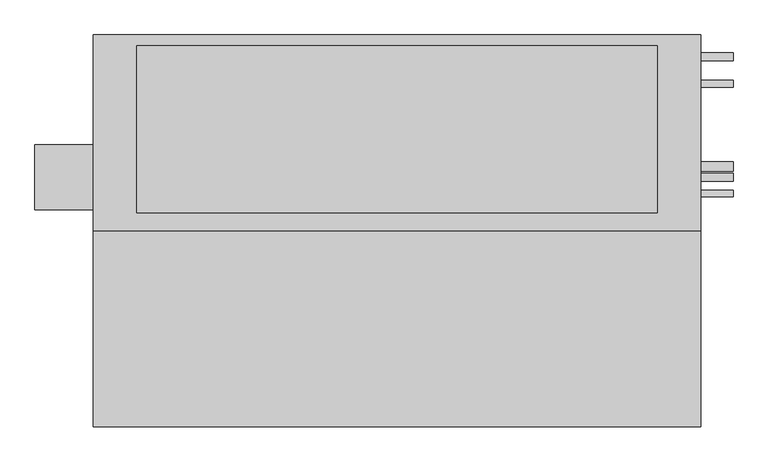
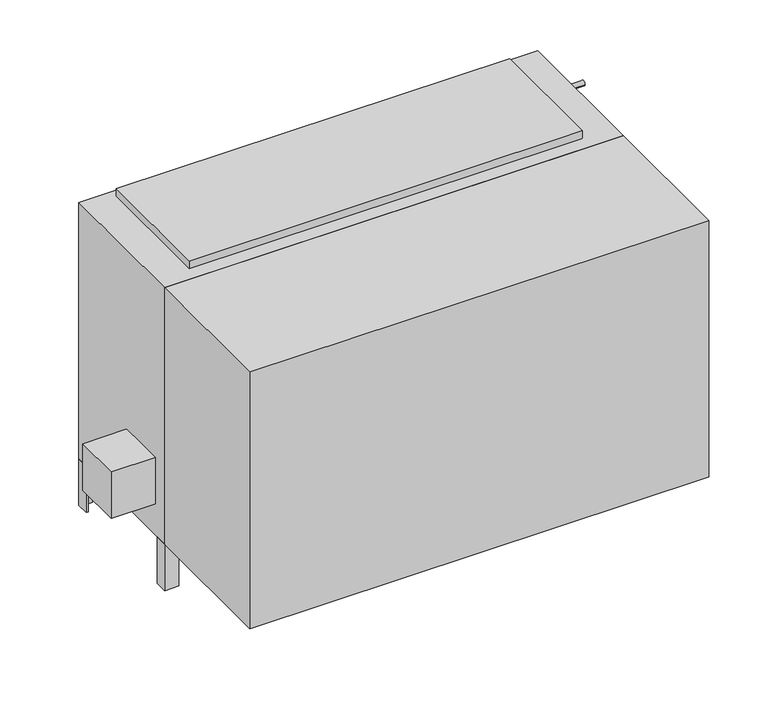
"""IFC4 building model written with IfcOpenShell, lengths in millimetres: proxy geometry, Concealed_High_Capacity_Vertical_Fan_Coil_Unit_-_42DDA_-_CARRIER_-_4-Pipe_RH_2022 : Size 20 - 277v/60Hz/1Ph - 4/2 Coil."""

from ifc_helpers import new_model, si_unit, point, frame, frame_2d, origin, origin_with_axes, place, context, project, spatial, polyline, circle_curve, trimmed, segment, composite_curve, outline, extrude, source, transform, mapped, element, save


def mechanical_equipment_b6b0d0cb(model_context):
    return source(origin(), model_context, "Body", "SweptSolid", [
        extrude(outline(polyline([(863.6, -925.5125), (-558.8, -925.5125), (-558.8, -468.3125), (863.6, -468.3125), (863.6, -925.5125)])), origin_with_axes(), (0.0, 0.0, 1.0), 841.375),
        extrude(outline(polyline([(-695.325, -417.5125), (-695.325, -265.1125), (-558.8, -265.1125), (-558.8, -417.5125), (-695.325, -417.5125)])), frame((0.0, 0.0, 101.6), z_axis=(0.0, 0.0, 1.0), x_axis=(1.0, 0.0, 0.0)), (0.0, 0.0, 1.0), 152.4),
        extrude(outline(polyline([(863.6, -46.0375), (857.25, -46.0375), (857.25, -14.2875), (825.5, -14.2875), (825.5, -7.9375), (863.6, -7.9375), (863.6, -46.0375)])), frame((0.0, 0.0, -152.4), z_axis=(0.0, 0.0, 1.0), x_axis=(1.0, 0.0, 0.0)), (0.0, 0.0, 1.0), 152.4),
        extrude(outline(polyline([(-520.7, -7.9375), (-520.7, -14.2875), (-552.45, -14.2875), (-552.45, -46.0375), (-558.8, -46.0375), (-558.8, -7.9375), (-520.7, -7.9375)])), frame((0.0, 0.0, -152.4), z_axis=(0.0, 0.0, 1.0), x_axis=(1.0, 0.0, 0.0)), (0.0, 0.0, 1.0), 152.4),
        extrude(outline(polyline([(825.5, -468.3125), (825.5, -461.9625), (857.25, -461.9625), (857.25, -430.2125), (863.6, -430.2125), (863.6, -468.3125), (825.5, -468.3125)])), frame((0.0, 0.0, -152.4), z_axis=(0.0, 0.0, 1.0), x_axis=(1.0, 0.0, 0.0)), (0.0, 0.0, 1.0), 152.4),
        extrude(outline(polyline([(-558.8, -428.1199163), (-552.45, -428.1199163), (-552.45, -461.9625), (-515.3318533, -461.9625), (-515.3318533, -468.3125), (-558.8, -468.3125), (-558.8, -428.1199163)])), frame((0.0, 0.0, -152.4), z_axis=(0.0, 0.0, 1.0), x_axis=(1.0, 0.0, 0.0)), (0.0, 0.0, 1.0), 152.4),
        extrude(outline(polyline([(762.0, -33.3375), (762.0, -423.8625), (-457.2, -423.8625), (-457.2, -33.3375), (762.0, -33.3375)])), frame((0.0, 0.0, 841.375), z_axis=(0.0, 0.0, 1.0), x_axis=(1.0, 0.0, 0.0)), (0.0, 0.0, 1.0), 25.4),
        extrude(outline(polyline([(838.2, -471.4875), (-533.4, -471.4875), (-533.4, -468.3125), (838.2, -468.3125), (838.2, -471.4875)])), frame((0.0, 0.0, 50.8), z_axis=(0.0, 0.0, 1.0), x_axis=(1.0, 0.0, 0.0)), (0.0, 0.0, 1.0), 304.8),
        extrude(outline(composite_curve([segment(trimmed(circle_curve(frame_2d((-122.2375, 777.875)), 7.9375), [point((-114.3, 777.875))], [point((-130.175, 777.875))], False, "CARTESIAN"), True, "CONTINUOUS"), segment(trimmed(circle_curve(frame_2d((-122.2375, 777.875)), 7.9375), [point((-130.175, 777.875))], [point((-114.3, 777.875))], False, "CARTESIAN"), True, "CONTINUOUS")], self_intersect=False)), frame((863.6, 0.0, 0.0), z_axis=(1.0, 0.0, 0.0), x_axis=(0.0, 1.0, 0.0)), (0.0, 0.0, 1.0), 76.2),
        extrude(outline(composite_curve([segment(trimmed(circle_curve(frame_2d((-379.4125, 663.575)), 7.9375), [point((-371.475, 663.575))], [point((-387.35, 663.575))], False, "CARTESIAN"), True, "CONTINUOUS"), segment(trimmed(circle_curve(frame_2d((-379.4125, 663.575)), 7.9375), [point((-387.35, 663.575))], [point((-371.475, 663.575))], False, "CARTESIAN"), True, "CONTINUOUS")], self_intersect=False)), frame((863.6, 0.0, 0.0), z_axis=(1.0, 0.0, 0.0), x_axis=(0.0, 1.0, 0.0)), (0.0, 0.0, 1.0), 76.2),
        extrude(outline(composite_curve([segment(trimmed(circle_curve(frame_2d((-58.7375, 727.075)), 9.525), [point((-49.2125, 727.075))], [point((-68.2625, 727.075))], False, "CARTESIAN"), True, "CONTINUOUS"), segment(trimmed(circle_curve(frame_2d((-58.7375, 727.075)), 9.525), [point((-68.2625, 727.075))], [point((-49.2125, 727.075))], False, "CARTESIAN"), True, "CONTINUOUS")], self_intersect=False)), frame((863.6, 0.0, 0.0), z_axis=(1.0, 0.0, 0.0), x_axis=(0.0, 1.0, 0.0)), (0.0, 0.0, 1.0), 76.2),
        extrude(outline(composite_curve([segment(trimmed(circle_curve(frame_2d((-341.3125, 625.475)), 9.525), [point((-331.7875, 625.475))], [point((-350.8375, 625.475))], False, "CARTESIAN"), True, "CONTINUOUS"), segment(trimmed(circle_curve(frame_2d((-341.3125, 625.475)), 9.525), [point((-350.8375, 625.475))], [point((-331.7875, 625.475))], False, "CARTESIAN"), True, "CONTINUOUS")], self_intersect=False)), frame((863.6, 0.0, 0.0), z_axis=(1.0, 0.0, 0.0), x_axis=(0.0, 1.0, 0.0)), (0.0, 0.0, 1.0), 76.2),
        extrude(outline(composite_curve([segment(trimmed(circle_curve(frame_2d((-315.9125, 536.575)), 11.1125), [point((-304.8, 536.575))], [point((-327.025, 536.575))], False, "CARTESIAN"), True, "CONTINUOUS"), segment(trimmed(circle_curve(frame_2d((-315.9125, 536.575)), 11.1125), [point((-327.025, 536.575))], [point((-304.8, 536.575))], False, "CARTESIAN"), True, "CONTINUOUS")], self_intersect=False)), frame((863.6, 0.0, 0.0), z_axis=(1.0, 0.0, 0.0), x_axis=(0.0, 1.0, 0.0)), (0.0, 0.0, 1.0), 76.2),
        extrude(outline(polyline([(863.6, -7.9375), (863.6, -468.3125), (-558.8, -468.3125), (-558.8, -7.9375), (863.6, -7.9375)])), origin_with_axes(), (0.0, 0.0, 1.0), 841.375),
    ])


if __name__ == "__main__":
    model = new_model("IFC4")
    model_context = context("Model", 3, world=origin())
    ifc_project = project(units=[si_unit("LENGTHUNIT", "METRE", prefix="MILLI")], contexts=[model_context])
    site = spatial("IfcSite", under=ifc_project)
    building = spatial("IfcBuilding", under=site)
    placement = place(None, origin())
    mechanical_equipment_shape = mechanical_equipment_b6b0d0cb(model_context)
    element("IfcBuildingElementProxy", 1, Name="Concealed_High_Capacity_Vertical_Fan_Coil_Unit_-_42DDA_-_CARRIER_-_4-Pipe_RH_2022 : Size 20 - 277v/60Hz/1Ph - 4/2 Coil", ObjectType="Concealed_High_Capacity_Vertical_Fan_Coil_Unit_-_42DDA_-_CARRIER_-_4-Pipe_RH_2022 : Size 20 - 277v/60Hz/1Ph - 4/2 Coil", at=placement, inside=building, context=model_context, shape_type="MappedRepresentation", body=[
        mapped(mechanical_equipment_shape, transform((0.0, 0.0, 0.0), x_axis=(1.0, 0.0, 0.0), y_axis=(0.0, 1.0, 0.0), z_axis=(0.0, 0.0, 1.0))),
    ])
    save(model, "model.ifc")
